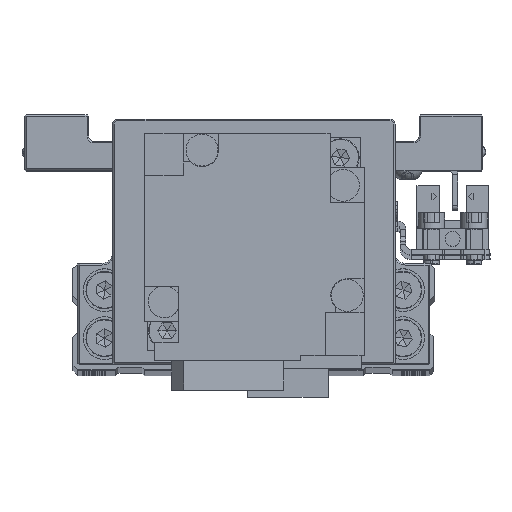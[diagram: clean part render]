
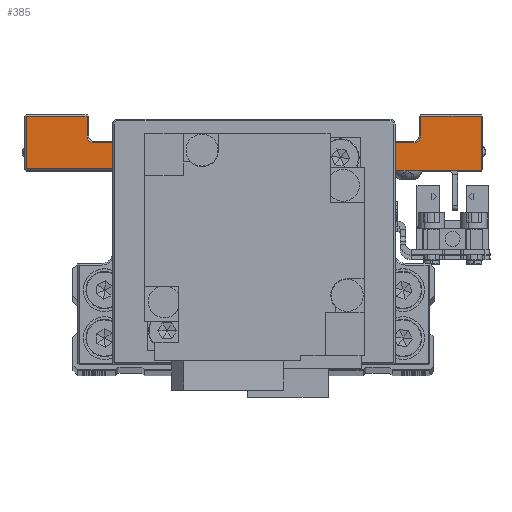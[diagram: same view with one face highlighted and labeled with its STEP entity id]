
A CAD part, top view. The second image highlights one B-rep face of the part: STEP entity #385.
In plain terms, the highlighted planar face has unit normal (0, 0, 1) as drawn and (1, 0, 0) by its records, which use the part's own axes.
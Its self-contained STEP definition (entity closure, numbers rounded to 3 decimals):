
#246 = LINE ( 'NONE', #11634, #22263 ) ;
#385 = ADVANCED_FACE ( 'NONE', ( #33627 ), #8175, .F. ) ;
#575 = CARTESIAN_POINT ( 'NONE',  ( 45., -8.2, -19.7 ) ) ;
#1242 = CARTESIAN_POINT ( 'NONE',  ( 45., 7.5, 19.7 ) ) ;
#2379 = ORIENTED_EDGE ( 'NONE', *, *, #4821, .T. ) ;
#2587 = CARTESIAN_POINT ( 'NONE',  ( 45., 17.7, 31.3 ) ) ;
#2594 = EDGE_CURVE ( 'NONE', #7573, #18608, #246, .T. ) ;
#2904 = VECTOR ( 'NONE', #12628, 1000. ) ;
#3067 = CARTESIAN_POINT ( 'NONE',  ( 45., 17.7, -20. ) ) ;
#3096 = VERTEX_POINT ( 'NONE', #575 ) ;
#3132 = ORIENTED_EDGE ( 'NONE', *, *, #20053, .T. ) ;
#3193 = ORIENTED_EDGE ( 'NONE', *, *, #31740, .T. ) ;
#3710 = DIRECTION ( 'NONE',  ( 0., 1., 0. ) ) ;
#3770 = CARTESIAN_POINT ( 'NONE',  ( 45., 17.7, -31.3 ) ) ;
#4019 = LINE ( 'NONE', #15383, #25554 ) ;
#4271 = EDGE_CURVE ( 'NONE', #25093, #7573, #20134, .T. ) ;
#4396 = EDGE_CURVE ( 'NONE', #16125, #24699, #7466, .T. ) ;
#4642 = CARTESIAN_POINT ( 'NONE',  ( 45., 7.5, -19.7 ) ) ;
#4821 = EDGE_CURVE ( 'NONE', #17514, #3096, #19452, .T. ) ;
#5313 = DIRECTION ( 'NONE',  ( 0., 0., -1. ) ) ;
#5367 = DIRECTION ( 'NONE',  ( 0., 0., 1. ) ) ;
#6009 = DIRECTION ( 'NONE',  ( 0., 0., -1. ) ) ;
#6312 = VERTEX_POINT ( 'NONE', #34864 ) ;
#6745 = DIRECTION ( 'NONE',  ( 0., 0., 1. ) ) ;
#6796 = CARTESIAN_POINT ( 'NONE',  ( 45., 12.7, -30. ) ) ;
#7394 = EDGE_CURVE ( 'NONE', #19743, #6312, #35700, .T. ) ;
#7466 = CIRCLE ( 'NONE', #28231, 1.3 ) ;
#7573 = VERTEX_POINT ( 'NONE', #22690 ) ;
#8110 = VERTEX_POINT ( 'NONE', #3770 ) ;
#8175 = PLANE ( 'NONE',  #18742 ) ;
#8284 = ORIENTED_EDGE ( 'NONE', *, *, #7394, .T. ) ;
#8306 = DIRECTION ( 'NONE',  ( 0., -1., 0. ) ) ;
#8590 = DIRECTION ( 'NONE',  ( 0., 0., 1. ) ) ;
#9442 = EDGE_CURVE ( 'NONE', #14141, #27813, #25484, .T. ) ;
#9447 = AXIS2_PLACEMENT_3D ( 'NONE', #36071, #10616, #21955 ) ;
#9861 = ORIENTED_EDGE ( 'NONE', *, *, #20287, .T. ) ;
#10224 = ORIENTED_EDGE ( 'NONE', *, *, #9442, .T. ) ;
#10252 = CARTESIAN_POINT ( 'NONE',  ( 45., 7.8, 20. ) ) ;
#10616 = DIRECTION ( 'NONE',  ( -1., 0., 0. ) ) ;
#11026 = VECTOR ( 'NONE', #6009, 1000. ) ;
#11300 = DIRECTION ( 'NONE',  ( 0., 0., 1. ) ) ;
#11634 = CARTESIAN_POINT ( 'NONE',  ( 45., 7.5, -42.7 ) ) ;
#11883 = CARTESIAN_POINT ( 'NONE',  ( 45., 17.7, -42.7 ) ) ;
#12160 = CARTESIAN_POINT ( 'NONE',  ( 45., 7.5, -19.7 ) ) ;
#12628 = DIRECTION ( 'NONE',  ( 0., -1., 0. ) ) ;
#13210 = ORIENTED_EDGE ( 'NONE', *, *, #35121, .T. ) ;
#13841 = VERTEX_POINT ( 'NONE', #21852 ) ;
#14025 = VECTOR ( 'NONE', #5313, 1000. ) ;
#14141 = VERTEX_POINT ( 'NONE', #15140 ) ;
#14435 = DIRECTION ( 'NONE',  ( 0., 0., 1. ) ) ;
#15016 = VECTOR ( 'NONE', #14435, 1000. ) ;
#15140 = CARTESIAN_POINT ( 'NONE',  ( 45., 12.7, 30. ) ) ;
#15383 = CARTESIAN_POINT ( 'NONE',  ( 45., 7.5, -31.3 ) ) ;
#16012 = DIRECTION ( 'NONE',  ( 0., 1., 0. ) ) ;
#16125 = VERTEX_POINT ( 'NONE', #30670 ) ;
#16151 = VERTEX_POINT ( 'NONE', #2587 ) ;
#16592 = VECTOR ( 'NONE', #11300, 1000. ) ;
#17514 = VERTEX_POINT ( 'NONE', #35962 ) ;
#17859 = LINE ( 'NONE', #29190, #34025 ) ;
#18133 = EDGE_CURVE ( 'NONE', #24699, #14141, #22726, .T. ) ;
#18608 = VERTEX_POINT ( 'NONE', #11883 ) ;
#18742 = AXIS2_PLACEMENT_3D ( 'NONE', #19503, #30835, #5367 ) ;
#18747 = ORIENTED_EDGE ( 'NONE', *, *, #23226, .T. ) ;
#19452 = LINE ( 'NONE', #30779, #14025 ) ;
#19503 = CARTESIAN_POINT ( 'NONE',  ( 45., 7.5, -20. ) ) ;
#19743 = VERTEX_POINT ( 'NONE', #36060 ) ;
#20053 = EDGE_CURVE ( 'NONE', #6312, #17514, #26738, .T. ) ;
#20134 = LINE ( 'NONE', #31462, #11026 ) ;
#20287 = EDGE_CURVE ( 'NONE', #18608, #8110, #25410, .T. ) ;
#20597 = ORIENTED_EDGE ( 'NONE', *, *, #18133, .T. ) ;
#20883 = CARTESIAN_POINT ( 'NONE',  ( 45., 14., -30. ) ) ;
#21271 = ORIENTED_EDGE ( 'NONE', *, *, #4396, .T. ) ;
#21456 = ORIENTED_EDGE ( 'NONE', *, *, #4271, .T. ) ;
#21585 = DIRECTION ( 'NONE',  ( 0., 0., -1. ) ) ;
#21852 = CARTESIAN_POINT ( 'NONE',  ( 45., 17.7, 42.7 ) ) ;
#21955 = DIRECTION ( 'NONE',  ( 0., 0., 1. ) ) ;
#22263 = VECTOR ( 'NONE', #22971, 1000. ) ;
#22408 = ORIENTED_EDGE ( 'NONE', *, *, #23726, .T. ) ;
#22433 = LINE ( 'NONE', #33749, #32678 ) ;
#22690 = CARTESIAN_POINT ( 'NONE',  ( 45., 7.5, -42.7 ) ) ;
#22726 = LINE ( 'NONE', #34047, #23955 ) ;
#22971 = DIRECTION ( 'NONE',  ( 0., 1., 0. ) ) ;
#23226 = EDGE_CURVE ( 'NONE', #16151, #13841, #28544, .T. ) ;
#23726 = EDGE_CURVE ( 'NONE', #27813, #16151, #17859, .T. ) ;
#23955 = VECTOR ( 'NONE', #8590, 1000. ) ;
#24266 = VECTOR ( 'NONE', #21585, 1000. ) ;
#24478 = EDGE_CURVE ( 'NONE', #13841, #19743, #22433, .T. ) ;
#24699 = VERTEX_POINT ( 'NONE', #6796 ) ;
#25093 = VERTEX_POINT ( 'NONE', #12160 ) ;
#25410 = LINE ( 'NONE', #36740, #16592 ) ;
#25484 = CIRCLE ( 'NONE', #9447, 1.3 ) ;
#25554 = VECTOR ( 'NONE', #26713, 1000. ) ;
#26713 = DIRECTION ( 'NONE',  ( 0., -1., 0. ) ) ;
#26738 = LINE ( 'NONE', #1242, #2904 ) ;
#27813 = VERTEX_POINT ( 'NONE', #28649 ) ;
#28175 = EDGE_LOOP ( 'NONE', ( #13210, #21456, #36678, #9861, #3193, #21271, #20597, #10224, #22408, #18747, #32859, #8284, #3132, #2379 ) ) ;
#28231 = AXIS2_PLACEMENT_3D ( 'NONE', #20883, #32206, #6745 ) ;
#28544 = LINE ( 'NONE', #3067, #15016 ) ;
#28649 = CARTESIAN_POINT ( 'NONE',  ( 45., 14., 31.3 ) ) ;
#29190 = CARTESIAN_POINT ( 'NONE',  ( 45., 7.5, 31.3 ) ) ;
#30122 = LINE ( 'NONE', #4642, #32784 ) ;
#30670 = CARTESIAN_POINT ( 'NONE',  ( 45., 14., -31.3 ) ) ;
#30779 = CARTESIAN_POINT ( 'NONE',  ( 45., -8.2, -20. ) ) ;
#30835 = DIRECTION ( 'NONE',  ( -1., 0., 0. ) ) ;
#31462 = CARTESIAN_POINT ( 'NONE',  ( 45., 7.5, 43. ) ) ;
#31740 = EDGE_CURVE ( 'NONE', #8110, #16125, #4019, .T. ) ;
#32206 = DIRECTION ( 'NONE',  ( -1., 0., 0. ) ) ;
#32678 = VECTOR ( 'NONE', #8306, 1000. ) ;
#32784 = VECTOR ( 'NONE', #16012, 1000. ) ;
#32859 = ORIENTED_EDGE ( 'NONE', *, *, #24478, .T. ) ;
#33627 = FACE_OUTER_BOUND ( 'NONE', #28175, .T. ) ;
#33749 = CARTESIAN_POINT ( 'NONE',  ( 45., 7.5, 42.7 ) ) ;
#34025 = VECTOR ( 'NONE', #3710, 1000. ) ;
#34047 = CARTESIAN_POINT ( 'NONE',  ( 45., 12.7, 30. ) ) ;
#34864 = CARTESIAN_POINT ( 'NONE',  ( 45., 7.8, 19.7 ) ) ;
#35121 = EDGE_CURVE ( 'NONE', #3096, #25093, #30122, .T. ) ;
#35700 = LINE ( 'NONE', #10252, #24266 ) ;
#35962 = CARTESIAN_POINT ( 'NONE',  ( 45., -8.2, 19.7 ) ) ;
#36060 = CARTESIAN_POINT ( 'NONE',  ( 45., 7.8, 42.7 ) ) ;
#36071 = CARTESIAN_POINT ( 'NONE',  ( 45., 14., 30. ) ) ;
#36678 = ORIENTED_EDGE ( 'NONE', *, *, #2594, .T. ) ;
#36740 = CARTESIAN_POINT ( 'NONE',  ( 45., 17.7, -20. ) ) ;
